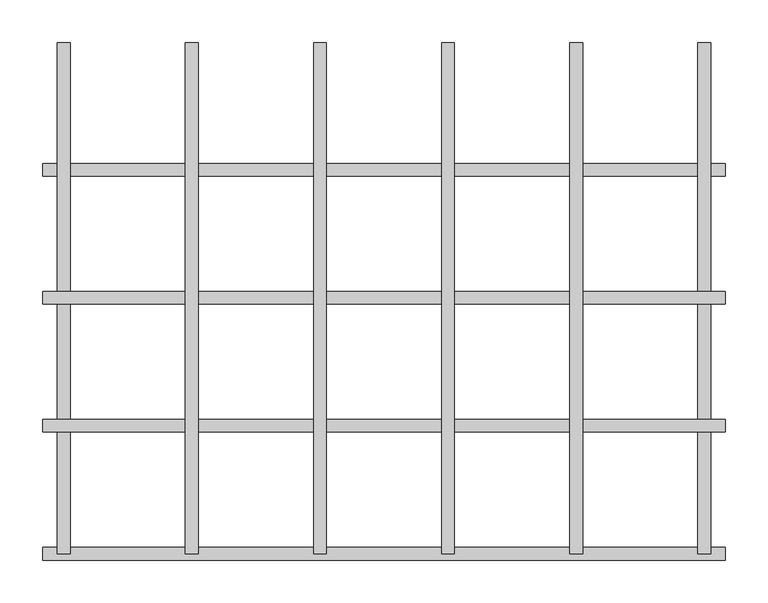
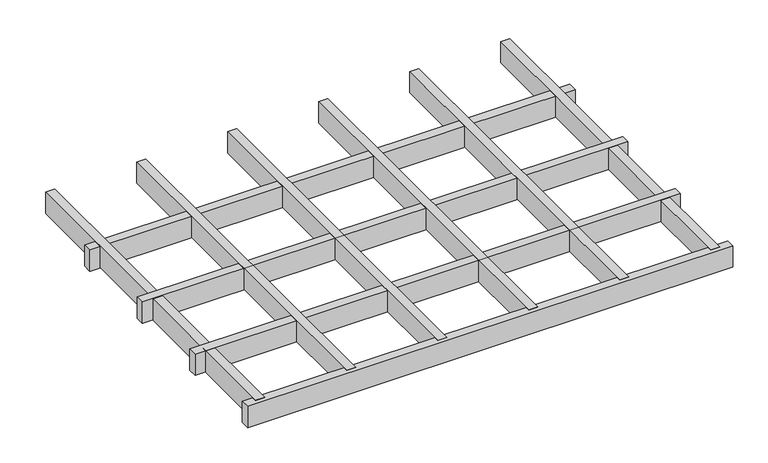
"""IFC4 building model written with IfcOpenShell, lengths in millimetres: proxy geometry, durlum_GEO_panel : durlum_GEO_15_length_cut."""

from ifc_helpers import new_model, si_unit, origin, origin_with_axes, place, context, project, spatial, polyline, outline, extrude, source, transform, mapped, element, save


def generic_models_892ac56f(model_context):
    return source(origin(), model_context, "Body", "SweptSolid", [
        extrude(outline(polyline([(217.5, 299.5), (232.5, 299.5), (232.5, -299.5), (217.5, -299.5), (217.5, 299.5)])), origin_with_axes(), (0.0, 0.0, 1.0), 37.0),
        extrude(outline(polyline([(67.5, 299.5), (82.5, 299.5), (82.5, -299.5), (67.5, -299.5), (67.5, 299.5)])), origin_with_axes(), (0.0, 0.0, 1.0), 37.0),
        extrude(outline(polyline([(-82.5, 299.5), (-67.5, 299.5), (-67.5, -299.5), (-82.5, -299.5), (-82.5, 299.5)])), origin_with_axes(), (0.0, 0.0, 1.0), 37.0),
        extrude(outline(polyline([(-232.5, 299.5), (-217.5, 299.5), (-217.5, -299.5), (-232.5, -299.5), (-232.5, 299.5)])), origin_with_axes(), (0.0, 0.0, 1.0), 37.0),
        extrude(outline(polyline([(399.75, -142.0), (399.75, -157.0), (-399.75, -157.0), (-399.75, -142.0), (399.75, -142.0)])), origin_with_axes(), (0.0, 0.0, 1.0), 37.0),
        extrude(outline(polyline([(399.75, 8.0), (399.75, -7.0), (-399.75, -7.0), (-399.75, 8.0), (399.75, 8.0)])), origin_with_axes(), (0.0, 0.0, 1.0), 37.0),
        extrude(outline(polyline([(367.5, 299.5), (382.5, 299.5), (382.5, -299.5), (367.5, -299.5), (367.5, 299.5)])), origin_with_axes(), (0.0, 0.0, 1.0), 37.0),
        extrude(outline(polyline([(-382.5, 299.5), (-367.5, 299.5), (-367.5, -299.5), (-382.5, -299.5), (-382.5, 299.5)])), origin_with_axes(), (0.0, 0.0, 1.0), 37.0),
        extrude(outline(polyline([(399.75, -292.0), (399.75, -307.0), (-399.75, -307.0), (-399.75, -292.0), (399.75, -292.0)])), origin_with_axes(), (0.0, 0.0, 1.0), 37.0),
        extrude(outline(polyline([(399.75, 158.0), (399.75, 143.0), (-399.75, 143.0), (-399.75, 158.0), (399.75, 158.0)])), origin_with_axes(), (0.0, 0.0, 1.0), 37.0),
    ])


if __name__ == "__main__":
    model = new_model("IFC4")
    model_context = context("Model", 3, world=origin())
    ifc_project = project(units=[si_unit("LENGTHUNIT", "METRE", prefix="MILLI")], contexts=[model_context])
    site = spatial("IfcSite", under=ifc_project)
    building = spatial("IfcBuilding", under=site)
    placement = place(None, origin())
    generic_models_shape = generic_models_892ac56f(model_context)
    element("IfcBuildingElementProxy", 1, Name="durlum_GEO_panel : durlum_GEO_15_length_cut", ObjectType="durlum_GEO_panel : durlum_GEO_15_length_cut", at=placement, inside=building, context=model_context, shape_type="MappedRepresentation", body=[
        mapped(generic_models_shape, transform((0.0, 0.0, 0.0), x_axis=(1.0, 0.0, 0.0), y_axis=(0.0, 1.0, 0.0), z_axis=(0.0, 0.0, 1.0))),
    ])
    save(model, "model.ifc")
